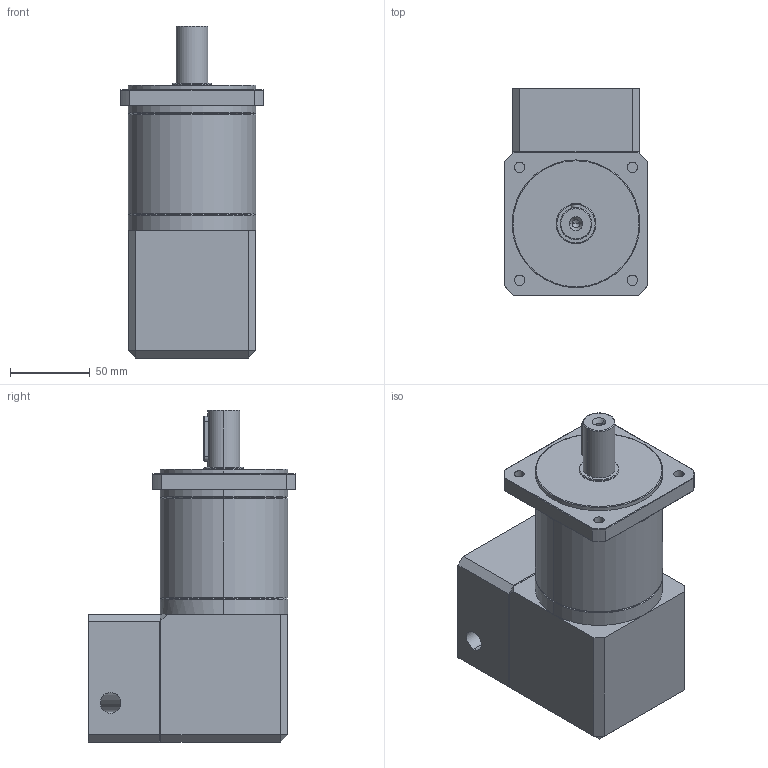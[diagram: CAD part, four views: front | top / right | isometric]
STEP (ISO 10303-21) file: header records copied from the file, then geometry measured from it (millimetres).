
FILE_DESCRIPTION (( 'STEP AP214' ), '1' );
FILE_NAME ('WPF80-L2-19×40-70-90M6 三维零件图.STEP', '2021-08-07T00:35:01', ( 'XJJ' ), ( '' ), 'SwSTEP 2.0', 'SolidWorks 2016', '' );
FILE_SCHEMA (( 'AUTOMOTIVE_DESIGN' ));
Length unit declared in the file: millimetre
Products named in the file (3): hexagon socket head cap screws gb_GB_FASTENER_SCREWS_HSHCS M5X16-N; WPF80-L2-19×40-70-90M6 三维零件图
Assembly tree (3 placements, depth 2):
  WPF80-L2-19×40-70-90M6 三维零件图
    WPF80-L2-19×40-70-90M6 三维零件图
    hexagon socket head cap screws gb_GB_FASTENER_SCREWS_HSHCS M5X16-N  x2
Bounding box: 90 x 130 x 208 mm (x, y, z)
Volume: 1226431.7 mm3; surface area: 98823.6 mm2
Topology: 3 solids, 3 shells, 221 faces, 506 edges, 295 vertices
Faces by surface type: plane 94, cylinder 66, cone 48, torus 13
Entity records: 6041 total; most frequent: CARTESIAN_POINT 1302, DIRECTION 986, ORIENTED_EDGE 876, EDGE_CURVE 438, AXIS2_PLACEMENT_3D 376, VERTEX_POINT 262, VECTOR 234, LINE 234
